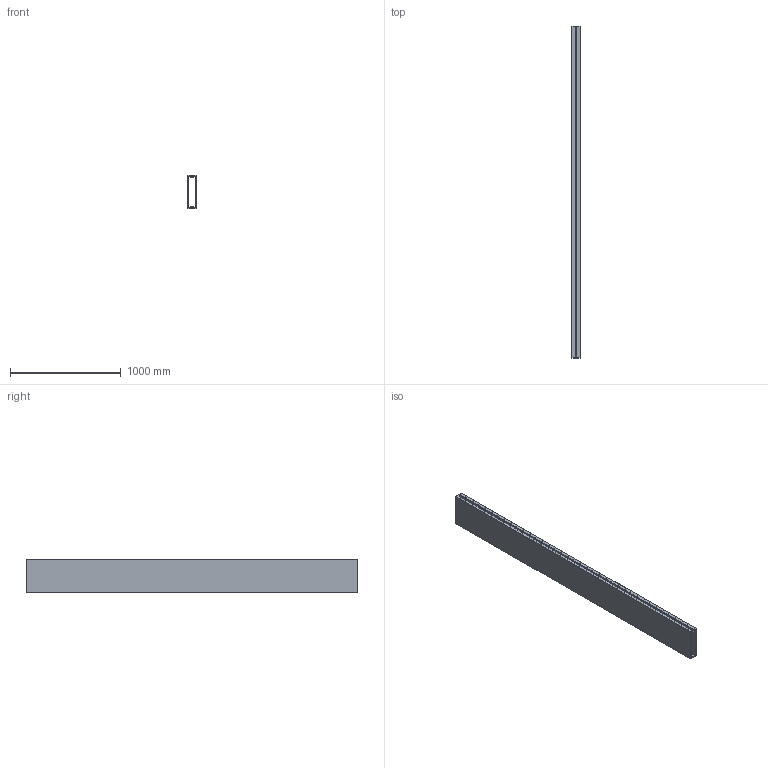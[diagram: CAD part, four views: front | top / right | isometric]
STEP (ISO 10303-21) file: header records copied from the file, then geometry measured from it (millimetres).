
FILE_DESCRIPTION (( 'STEP AP203' ), '1' );
FILE_NAME ('FBCB 3A300_44188.STEP', '2026-05-28T10:59:55', ( '' ), ( '' ), 'SwSTEP 2.0', 'SolidWorks 2024', '' );
FILE_SCHEMA (( 'CONFIG_CONTROL_DESIGN' ));
Length unit declared in the file: millimetre
Products named in the file (1): FBCB 3A300_44188
Bounding box: 74 x 3000 x 300 mm (x, y, z)
Volume: 16196118.5 mm3; surface area: 4639428.3 mm2
Topology: 1 solids, 1 shells, 101 faces, 297 edges, 198 vertices
Faces by surface type: plane 96, cylinder 5
Entity records: 3382 total; most frequent: CARTESIAN_POINT 597, ORIENTED_EDGE 594, DIRECTION 511, EDGE_CURVE 297, LINE 287, VECTOR 287, VERTEX_POINT 198, AXIS2_PLACEMENT_3D 112
